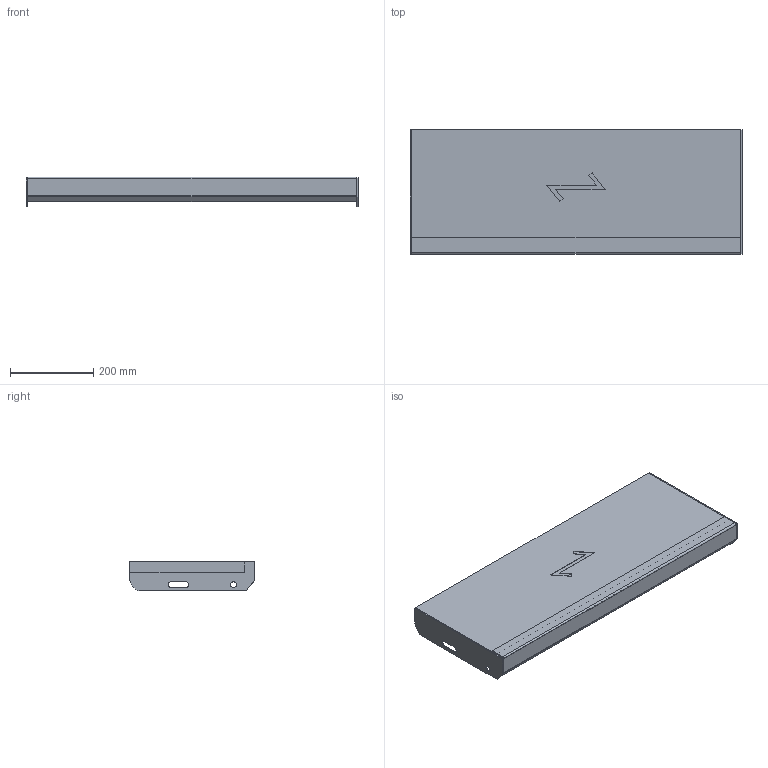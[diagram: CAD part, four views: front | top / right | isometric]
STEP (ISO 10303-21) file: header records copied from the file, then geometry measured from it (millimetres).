
FILE_DESCRIPTION (( 'STEP AP203' ), '1' );
FILE_NAME ('StegTH6-S-nya_steget-800x300.STEP', '2020-03-04T07:43:19', ( '' ), ( '' ), 'SwSTEP 2.0', 'SolidWorks 2019', '' );
FILE_SCHEMA (( 'CONFIG_CONTROL_DESIGN' ));
Length unit declared in the file: millimetre
Products named in the file (5): SW0000038703; StegTH6-S-nya_steget-800x300; SW0000039502; SW0000039244; SW0000039004
Assembly tree (5 placements, depth 3):
  StegTH6-S-nya_steget-800x300
    SW0000039502
      SW0000039004
      SW0000039244
      SW0000038703  x2
Bounding box: 800 x 300 x 72 mm (x, y, z)
Volume: 5770652 mm3; surface area: 737284.4 mm2
Topology: 4 solids, 4 shells, 67 faces, 158 edges, 100 vertices
Faces by surface type: plane 51, cylinder 16
Entity records: 2002 total; most frequent: DIRECTION 261, CARTESIAN_POINT 254, ORIENTED_EDGE 238, EDGE_CURVE 119, VECTOR 99, LINE 99, AXIS2_PLACEMENT_3D 81, VERTEX_POINT 74
